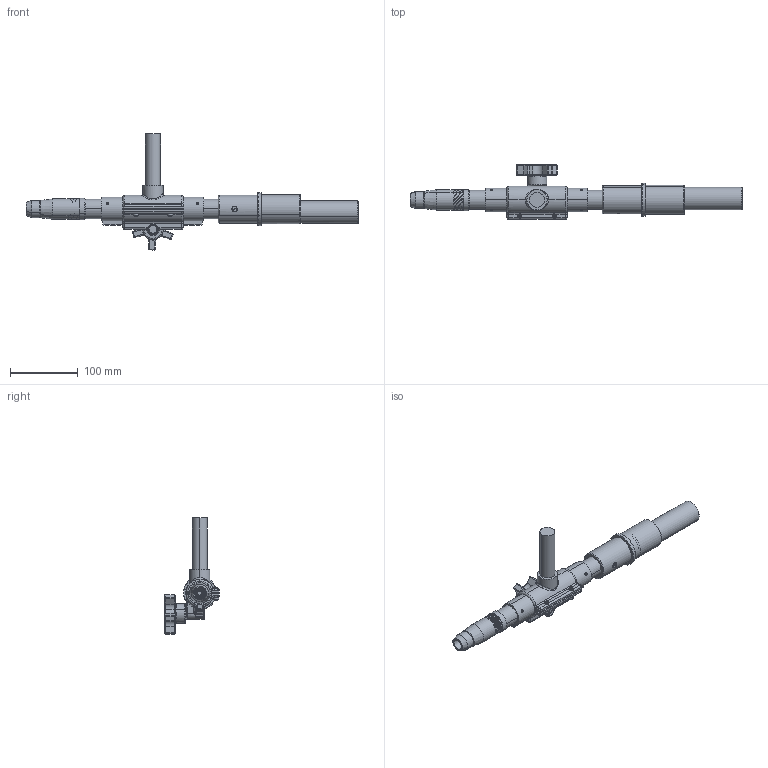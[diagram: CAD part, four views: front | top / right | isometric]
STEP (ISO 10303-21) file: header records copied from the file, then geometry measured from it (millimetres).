
FILE_DESCRIPTION (( 'STEP AP214' ), '1' );
FILE_NAME ('36910.STEP', '2021-03-18T18:37:16', ( '' ), ( '' ), 'SwSTEP 2.0', 'SolidWorks 2019', '' );
FILE_SCHEMA (( 'AUTOMOTIVE_DESIGN' ));
Length unit declared in the file: inch
Products named in the file (24): housing; Part H 13001 RH Gas fitting; 36825; knob; 10362; 10502; pinion gear; set screw; screw; 30419; 36910; 13163; 36824; 36828; 36820; 14051; 13205; 13197; 36826 36827; set screw 2; 13230; 16202; 12610; rack tube
Assembly tree (27 placements, depth 3):
  36910
    36820
    10502
    36824
    13230
    36828
    36825
    36826 36827
    16202
    13205
    13163
    13197
    10362
    Part H 13001 RH Gas fitting
    30419
      housing
      rack tube
      knob
      pinion gear
      set screw
      set screw 2  x4
      screw  x2
    12610
    14051
Bounding box: 491.54 x 80.78 x 172.02 mm (x, y, z)
Volume: 436445.4 mm3; surface area: 235407.4 mm2
Topology: 27 solids, 27 shells, 1609 faces, 4279 edges, 2720 vertices
Faces by surface type: cylinder 720, plane 489, cone 144, torus 127, bspline 95, sphere 34
Entity records: 82419 total; most frequent: CARTESIAN_POINT 45329, ORIENTED_EDGE 7880, DIRECTION 6915, EDGE_CURVE 3940, AXIS2_PLACEMENT_3D 2576, VERTEX_POINT 2520, LINE 1763, VECTOR 1763
